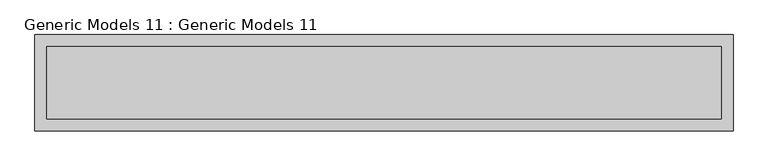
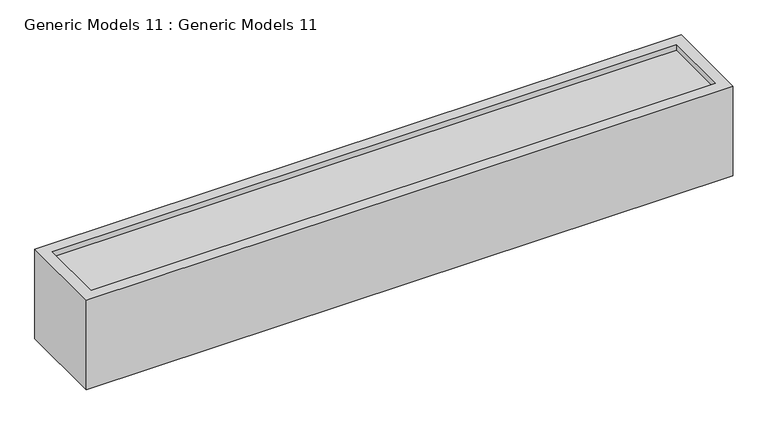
"""IFC4 building model written with IfcOpenShell, lengths in millimetres: proxy geometry, Generic Models 11 : Generic Models 11."""

from ifc_helpers import new_model, si_unit, origin, place, context, project, spatial, faceted_brep, source, transform, mapped, element, save


def generic_models_11_generic_models_11_0a952702(model_context):
    return source(origin(), model_context, "Body", "Brep", [
        faceted_brep([(23145.3362243, -8221.3561394, 850.0), (17345.3362243, -8221.3561394, 850.0), (17345.3362243, -9021.3561394, 850.0), (23145.3362243, -9021.3561394, 850.0), (23045.3362243, -8321.3561394, 850.0), (23045.3362243, -8921.3561394, 850.0), (17445.3362243, -8921.3561394, 850.0), (17445.3362243, -8321.3561394, 850.0), (23145.3362243, -8221.3561394, 0.0), (23145.3362243, -9021.3561394, 0.0), (17345.3362243, -9021.3561394, 0.0), (17345.3362243, -8221.3561394, 0.0), (23045.3362243, -8321.3561394, 800.0), (17445.3362243, -8321.3561394, 800.0), (17445.3362243, -8921.3561394, 800.0), (23045.3362243, -8921.3561394, 800.0)], [[[0, 1, 2, 3], [4, 5, 6, 7]], [[8, 9, 10, 11]], [[1, 0, 8, 11]], [[2, 1, 11, 10]], [[3, 2, 10, 9]], [[0, 3, 9, 8]], [[12, 13, 14, 15]], [[12, 15, 5, 4]], [[15, 14, 6, 5]], [[14, 13, 7, 6]], [[13, 12, 4, 7]]]),
    ])


if __name__ == "__main__":
    model = new_model("IFC4")
    model_context = context("Model", 3, world=origin())
    ifc_project = project(units=[si_unit("LENGTHUNIT", "METRE", prefix="MILLI")], contexts=[model_context])
    site = spatial("IfcSite", under=ifc_project)
    building = spatial("IfcBuilding", under=site)
    placement = place(None, origin())
    generic_models_11_generic_models_11_shape = generic_models_11_generic_models_11_0a952702(model_context)
    element("IfcBuildingElementProxy", 1, Name="Generic Models 11 : Generic Models 11", ObjectType="Generic Models 11 : Generic Models 11", at=placement, inside=building, context=model_context, shape_type="MappedRepresentation", body=[
        mapped(generic_models_11_generic_models_11_shape, transform((0.0, 0.0, 0.0), x_axis=(1.0, 0.0, 0.0), y_axis=(0.0, 1.0, 0.0), z_axis=(0.0, 0.0, 1.0))),
    ])
    save(model, "model.ifc")
